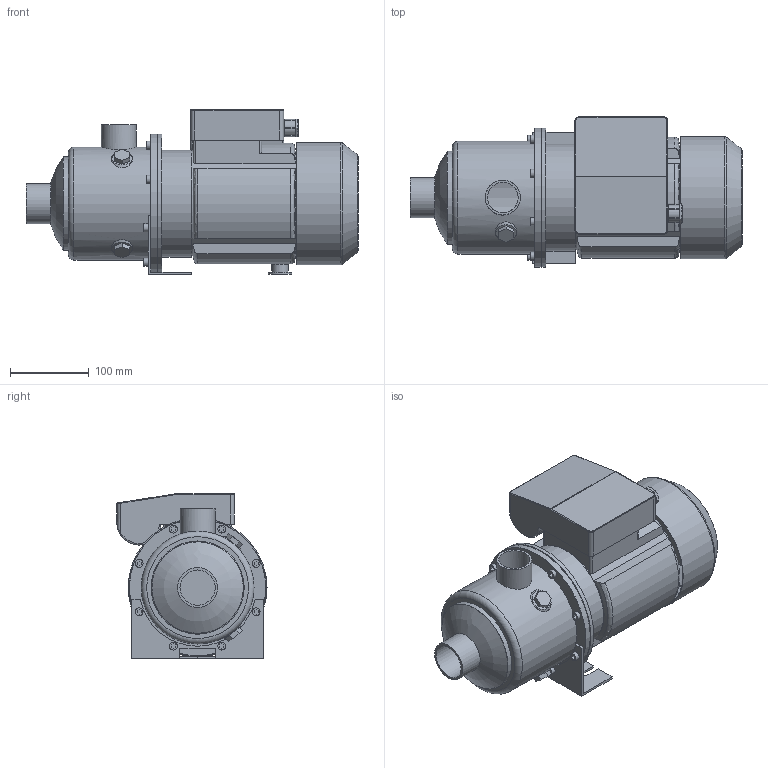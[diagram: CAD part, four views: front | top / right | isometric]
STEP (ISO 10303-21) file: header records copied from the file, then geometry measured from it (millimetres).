
FILE_DESCRIPTION(/* description */ ('Unknown'),/* implementation_level */ '2;1');
FILE_NAME(/* name */ 'MH 9 [3] M',/* time_stamp */ '2026-07-10T15:04:40+02:00',/* author */ ('Unknown'),/* organization */ ('Unknown'),/* preprocessor_version */ 'ST-DEVELOPER v20',/* originating_system */ 'Solid Edge',/* authorisation */ 'Unknown');
FILE_SCHEMA (('AUTOMOTIVE_DESIGN {1 0 10303 214 3 1 1}'));
Length unit declared in the file: millimetre
Products named in the file (10): MH 9 [3] M; Flangia motore Tonda M80; Corpo MH 9 [2-3]; Mot_Wendy_MEC80_11-15_M; carcassa MEC 80-Wendy; Copriventola MEC 80-Wendy; Basetta MEC 80 M-Wendy_new; 1; Piedino MEC 80 int.90; Staffa 3-5-9 int.90
Assembly tree (9 placements, depth 3):
  MH 9 [3] M
    Flangia motore Tonda M80
    Corpo MH 9 [2-3]
    Mot_Wendy_MEC80_11-15_M
      carcassa MEC 80-Wendy
      Copriventola MEC 80-Wendy
      Basetta MEC 80 M-Wendy_new
      1
    Piedino MEC 80 int.90
    Staffa 3-5-9 int.90
Bounding box: 422.1 x 190.75 x 209.5 mm (x, y, z)
Volume: 2612177.1 mm3; surface area: 578733.5 mm2
Topology: 8 solids, 8 shells, 287 faces, 678 edges, 447 vertices
Faces by surface type: plane 169, cylinder 79, torus 19, cone 14, bspline 4, sphere 2
Full cylindrical faces by diameter (mm): 7 x4, 10 x9, 12 x1, 15 x1, 16.5 x1, 21 x1, 30 x1, 38.952 x1, 44.5 x1, 44.845 x1, 50.8 x1, 116.1 x1, 118.5 x1, 125 x1, 130 x3, 134 x1, 136 x1, 141.1 x1, 143.5 x1, 153.5 x1, 155.5 x1, 173.5 x1, 174.1 x1, 176.5 x2
Entity records: 9330 total; most frequent: CARTESIAN_POINT 1798, DIRECTION 1316, ORIENTED_EDGE 1180, EDGE_CURVE 590, AXIS2_PLACEMENT_3D 487, VERTEX_POINT 417, EDGE_LOOP 395, FACE_BOUND 395
